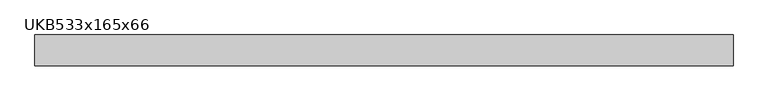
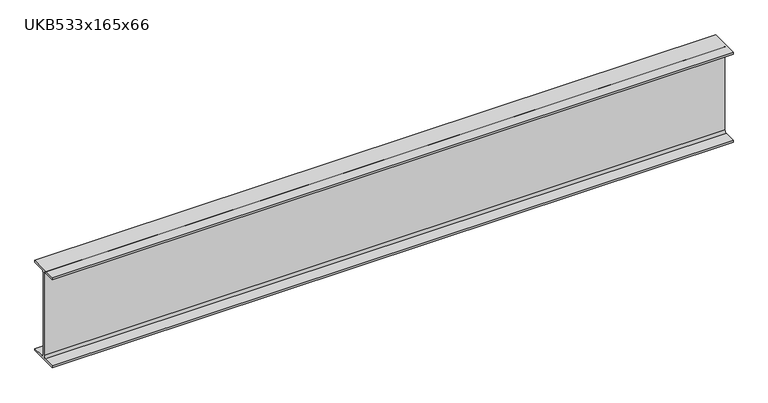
"""IFC4 building model written with IfcOpenShell, lengths in millimetres: beam geometry, UKB-UK Beams : UKB533x165x66."""

from ifc_helpers import new_model, si_unit, point, frame, frame_2d, origin, place, context, project, spatial, polyline, circle_curve, trimmed, segment, composite_curve, outline, extrude, source, transform, mapped, element, save


def ukb533x165x66_a64840dc(model_context):
    return source(origin(), model_context, "Body", "SweptSolid", [
        extrude(outline(composite_curve([segment(polyline([(82.55, -250.95), (82.55, -262.35), (-82.55, -262.35), (-82.55, -250.95), (-17.15, -250.95)]), True, "CONTINUOUS"), segment(trimmed(circle_curve(frame_2d((-17.15, -238.25)), 12.7), [point((-17.15, -250.95))], [point((-4.45, -238.25))], True, "CARTESIAN"), True, "CONTINUOUS"), segment(polyline([(-4.45, -238.25), (-4.45, 238.25)]), True, "CONTINUOUS"), segment(trimmed(circle_curve(frame_2d((-17.15, 238.25)), 12.7), [point((-4.45, 238.25))], [point((-17.15, 250.95))], True, "CARTESIAN"), True, "CONTINUOUS"), segment(polyline([(-17.15, 250.95), (-82.55, 250.95), (-82.55, 262.35), (82.55, 262.35), (82.55, 250.95), (17.15, 250.95)]), True, "CONTINUOUS"), segment(trimmed(circle_curve(frame_2d((17.15, 238.25)), 12.7), [point((17.15, 250.95))], [point((4.45, 238.25))], True, "CARTESIAN"), True, "CONTINUOUS"), segment(polyline([(4.45, 238.25), (4.45, -238.25)]), True, "CONTINUOUS"), segment(trimmed(circle_curve(frame_2d((17.15, -238.25)), 12.7), [point((4.45, -238.25))], [point((17.15, -250.95))], True, "CARTESIAN"), True, "CONTINUOUS"), segment(polyline([(17.15, -250.95), (82.55, -250.95)]), True, "CONTINUOUS")], self_intersect=False)), frame((-1892.0, 0.0, 0.0), z_axis=(1.0, 0.0, 0.0), x_axis=(0.0, 1.0, 0.0)), (0.0, 0.0, 1.0), 3750.0),
    ])


if __name__ == "__main__":
    model = new_model("IFC4")
    model_context = context("Model", 3, world=origin())
    ifc_project = project(units=[si_unit("LENGTHUNIT", "METRE", prefix="MILLI")], contexts=[model_context])
    site = spatial("IfcSite", under=ifc_project)
    building = spatial("IfcBuilding", under=site)
    placement = place(None, origin())
    ukb533x165x66_shape = ukb533x165x66_a64840dc(model_context)
    element("IfcBeam", 1, ObjectType="UKB-UK Beams : UKB533x165x66", at=placement, inside=building, context=model_context, shape_type="MappedRepresentation", body=[
        mapped(ukb533x165x66_shape, transform((0.0, 0.0, 0.0), x_axis=(1.0, 0.0, 0.0), y_axis=(0.0, 1.0, 0.0), z_axis=(0.0, 0.0, 1.0))),
    ])
    save(model, "model.ifc")
